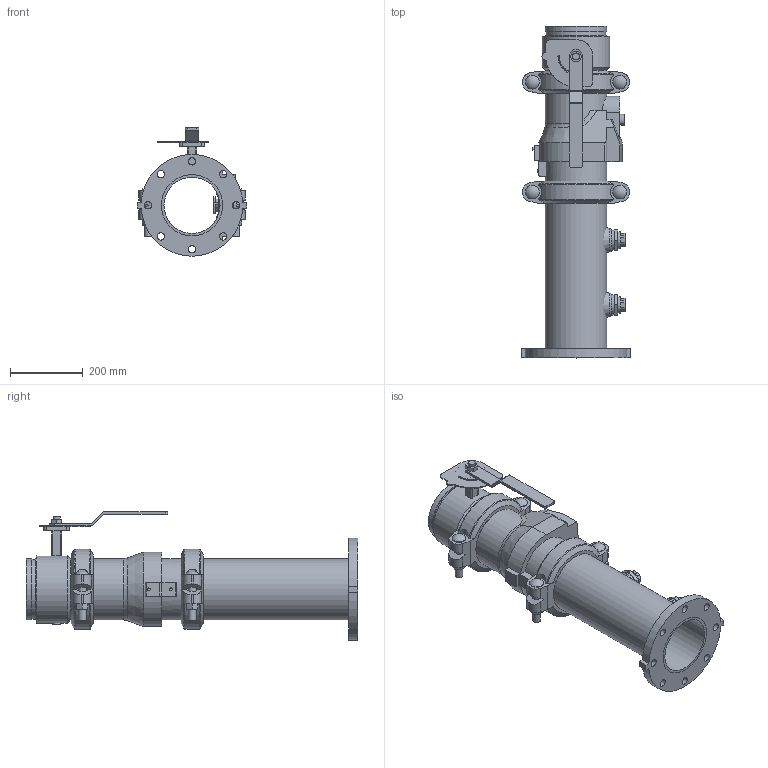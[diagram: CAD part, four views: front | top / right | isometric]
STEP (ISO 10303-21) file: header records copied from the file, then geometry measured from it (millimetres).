
FILE_DESCRIPTION(/* description */ ('VIC DVI PUMP DROP VERT S/390 (OGSxFLG)','CAx-IF Rec.Pracs.---Representation and Presentation of Product Manufacturing Information (PMI)---4.0---2014-10-13'),/* implementation_level */ '2;1');
FILE_NAME(/* name */ 'C:\Users\Vjadhav\AppData\Roaming\Autodesk\ApplicationPlugins\Back Up\Victaulic_IPS_Vertical DVI_PN10_Series 390 (OGSxFLG)\Victaulic_IPS_Vertical DVI_PN10_Series 390 (OGSxFLG)_06.0x06.0 (150x150).stp',/* time_stamp */ '2020-11-09T17:51:24+05:00',/* author */ ('Vjadhav'),/* organization */ ('Victaulic'),/* preprocessor_version */ 'ST-DEVELOPER v17.2',/* originating_system */ 'Autodesk Inventor 2019',/* authorisation */ '');
FILE_SCHEMA (('AP242_MANAGED_MODEL_BASED_3D_ENGINEERING_MIM_LF { 1 0 10303 442 1 1 4 }'));
Length unit declared in the file: inch
Products named in the file (7): 390-06.0x06.0; 741-06.0; Pipe-06.0x06.0; 177N-06.0; 761-06.0; 716-06.0; 923-04.0x0.75
Assembly tree (8 placements, depth 2):
  390-06.0x06.0
    741-06.0
    Pipe-06.0x06.0
    177N-06.0  x2
    761-06.0
    716-06.0
    923-04.0x0.75  x2
Bounding box: 301.75 x 911.1 x 352.55 mm (x, y, z)
Volume: 9101751.4 mm3; surface area: 1572211 mm2
Topology: 8 solids, 9 shells, 500 faces, 1312 edges, 876 vertices
Faces by surface type: plane 296, cylinder 171, cone 14, torus 13, sphere 4, bspline 2
Full cylindrical faces by diameter (mm): 4.826 x10, 7.62 x2, 8.636 x4, 19.05 x2, 20.066 x8, 21.209 x4, 22.86 x1, 26.67 x2, 30.48 x1, 37.694 x4, 45.974 x4, 55.118 x1, 55.626 x2, 154.051 x2, 155.575 x2, 157.15 x1, 163.957 x6, 168.275 x16, 185.42 x1
Entity records: 11944 total; most frequent: CARTESIAN_POINT 2305, DIRECTION 1973, ORIENTED_EDGE 1826, EDGE_CURVE 913, AXIS2_PLACEMENT_3D 734, VERTEX_POINT 612, LINE 505, VECTOR 505
